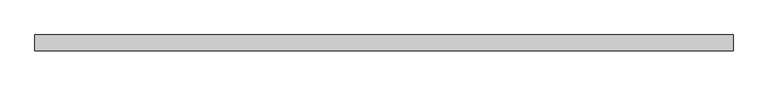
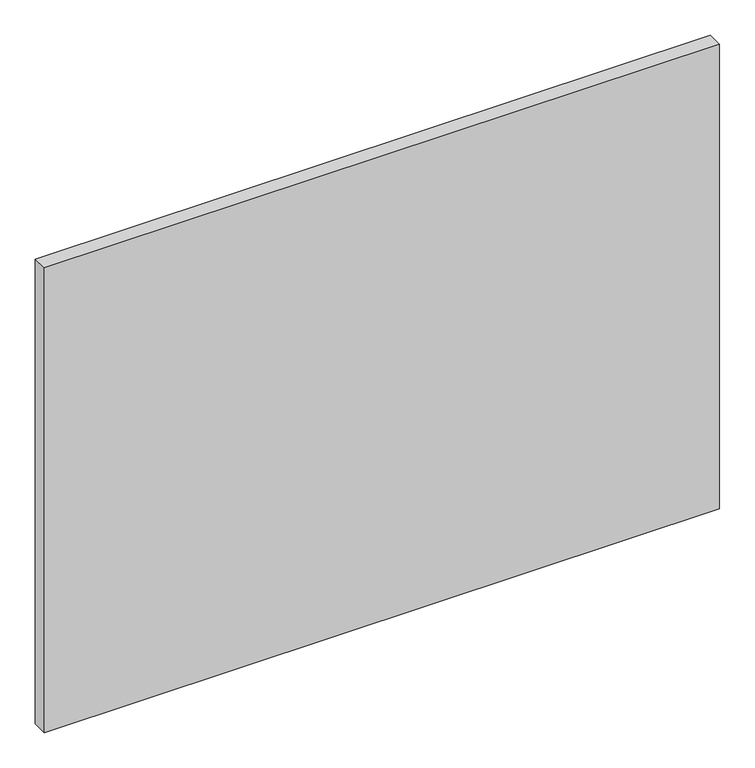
"""IFC4 building model written with IfcOpenShell, lengths in millimetres: plate geometry, 系统嵌板 : 玻璃."""

from ifc_helpers import new_model, si_unit, origin, origin_with_axes, place, context, project, spatial, polyline, outline, extrude, source, transform, mapped, element, save


def plate_9a7d06eb(model_context):
    return source(origin(), model_context, "Body", "SweptSolid", [
        extrude(outline(polyline([(550.0, -12.5), (-550.0, -12.5), (-550.0, 12.5), (550.0, 12.5), (550.0, -12.5)])), origin_with_axes(), (0.0, 0.0, 1.0), 800.0),
    ])


if __name__ == "__main__":
    model = new_model("IFC4")
    model_context = context("Model", 3, world=origin())
    ifc_project = project(units=[si_unit("LENGTHUNIT", "METRE", prefix="MILLI")], contexts=[model_context])
    site = spatial("IfcSite", under=ifc_project)
    building = spatial("IfcBuilding", under=site)
    placement = place(None, origin())
    plate_shape = plate_9a7d06eb(model_context)
    element("IfcPlate", 1, ObjectType="系统嵌板 : 玻璃", at=placement, inside=building, context=model_context, shape_type="MappedRepresentation", body=[
        mapped(plate_shape, transform((0.0, 0.0, 0.0), x_axis=(1.0, 0.0, 0.0), y_axis=(0.0, 1.0, 0.0), z_axis=(0.0, 0.0, 1.0))),
    ])
    save(model, "model.ifc")
